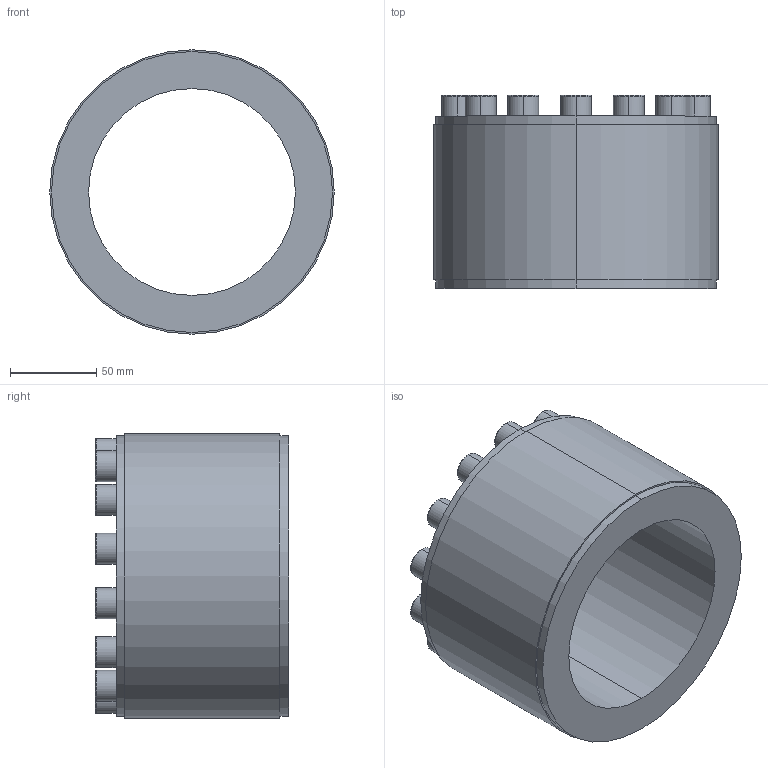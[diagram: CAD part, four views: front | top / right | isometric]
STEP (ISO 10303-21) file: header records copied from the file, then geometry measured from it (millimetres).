
FILE_DESCRIPTION (( 'STEP AP203' ), '1' );
FILE_NAME ('PL-D1 120-165.STEP', '2021-10-23T00:17:56', ( '' ), ( '' ), 'SwSTEP 2.0', 'SolidWorks 2018', '' );
FILE_SCHEMA (( 'CONFIG_CONTROL_DESIGN' ));
Length unit declared in the file: millimetre
Products named in the file (1): PL-D1 120-165
Bounding box: 165 x 112 x 165 mm (x, y, z)
Volume: 1037555.2 mm3; surface area: 121856.6 mm2
Topology: 1 solids, 1 shells, 180 faces, 416 edges, 268 vertices
Faces by surface type: plane 116, cylinder 36, torus 28
Entity records: 5165 total; most frequent: DIRECTION 906, CARTESIAN_POINT 865, ORIENTED_EDGE 832, EDGE_CURVE 416, AXIS2_PLACEMENT_3D 309, VECTOR 288, LINE 288, VERTEX_POINT 268
